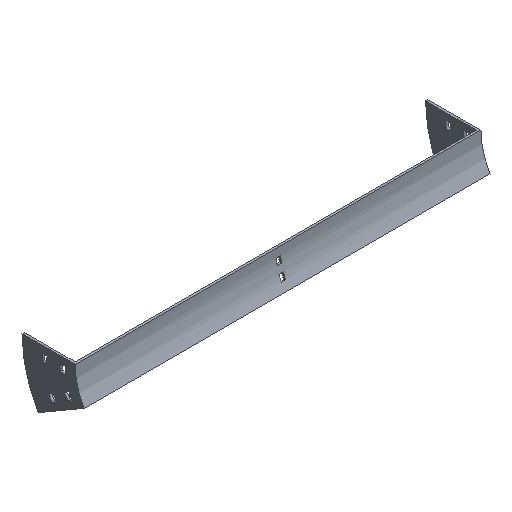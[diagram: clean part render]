
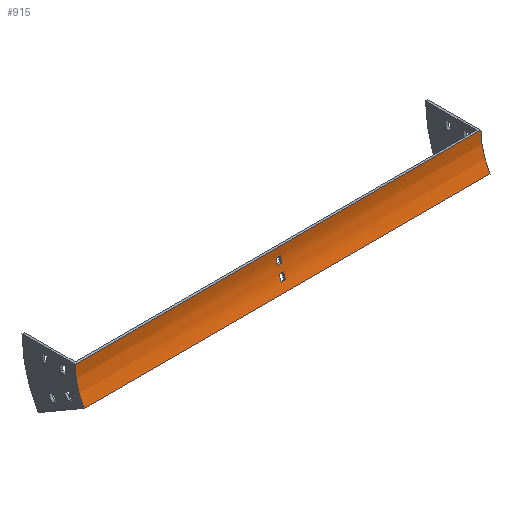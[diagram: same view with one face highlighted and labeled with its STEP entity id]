
A CAD part, isometric view. The second image highlights one B-rep face of the part: STEP entity #915.
In plain terms, the highlighted cylindrical face has radius 100 mm (diameter 200 mm), a partial arc.
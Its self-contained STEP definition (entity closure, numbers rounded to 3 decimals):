
#5 = ORIENTED_EDGE ( 'NONE', *, *, #574, .T. ) ;
#10 = EDGE_CURVE ( 'NONE', #500, #1544, #1281, .T. ) ;
#14 = CARTESIAN_POINT ( 'NONE',  ( 302., 0., 0. ) ) ;
#26 = CARTESIAN_POINT ( 'NONE',  ( -3.25, -8.023, -39.246 ) ) ;
#36 = DIRECTION ( 'NONE',  ( 0., 0., 1. ) ) ;
#45 = EDGE_CURVE ( 'NONE', #1100, #500, #129, .T. ) ;
#58 = CIRCLE ( 'NONE', #1128, 100. ) ;
#74 = DIRECTION ( 'NONE',  ( 1., 0., 0. ) ) ;
#75 = VERTEX_POINT ( 'NONE', #508 ) ;
#78 = CARTESIAN_POINT ( 'NONE',  ( 302., -13.397, -50. ) ) ;
#97 = CARTESIAN_POINT ( 'NONE',  ( 3.25, -8.023, -39.246 ) ) ;
#102 = EDGE_LOOP ( 'NONE', ( #1673, #227, #483, #754 ) ) ;
#111 = VERTEX_POINT ( 'NONE', #1688 ) ;
#129 = LINE ( 'NONE', #14, #579 ) ;
#144 = AXIS2_PLACEMENT_3D ( 'NONE', #688, #577, #36 ) ;
#156 = EDGE_CURVE ( 'NONE', #111, #259, #901, .T. ) ;
#160 = CARTESIAN_POINT ( 'NONE',  ( -3.25, -100., 0. ) ) ;
#191 = DIRECTION ( 'NONE',  ( -1., 0., 0. ) ) ;
#206 = VERTEX_POINT ( 'NONE', #26 ) ;
#210 = EDGE_CURVE ( 'NONE', #916, #111, #1098, .T. ) ;
#212 = CARTESIAN_POINT ( 'NONE',  ( 302., -8.023, -39.246 ) ) ;
#217 = ORIENTED_EDGE ( 'NONE', *, *, #1059, .F. ) ;
#227 = ORIENTED_EDGE ( 'NONE', *, *, #611, .F. ) ;
#259 = VERTEX_POINT ( 'NONE', #1452 ) ;
#316 = ORIENTED_EDGE ( 'NONE', *, *, #156, .F. ) ;
#323 = CARTESIAN_POINT ( 'NONE',  ( -302., -100., 0. ) ) ;
#345 = EDGE_CURVE ( 'NONE', #704, #1104, #1340, .T. ) ;
#354 = FACE_BOUND ( 'NONE', #985, .T. ) ;
#430 = ORIENTED_EDGE ( 'NONE', *, *, #345, .T. ) ;
#461 = DIRECTION ( 'NONE',  ( 1., 0., 0. ) ) ;
#472 = VECTOR ( 'NONE', #517, 1000. ) ;
#483 = ORIENTED_EDGE ( 'NONE', *, *, #1550, .F. ) ;
#500 = VERTEX_POINT ( 'NONE', #919 ) ;
#508 = CARTESIAN_POINT ( 'NONE',  ( -3.25, -2.23, -21. ) ) ;
#509 = VECTOR ( 'NONE', #1324, 1000. ) ;
#513 = CARTESIAN_POINT ( 'NONE',  ( 302., -13.397, -50. ) ) ;
#517 = DIRECTION ( 'NONE',  ( -1., 0., 0. ) ) ;
#533 = VERTEX_POINT ( 'NONE', #78 ) ;
#535 = CARTESIAN_POINT ( 'NONE',  ( 302., -4.829, -30.699 ) ) ;
#550 = CIRCLE ( 'NONE', #1502, 100. ) ;
#556 = DIRECTION ( 'NONE',  ( 0., 0., -1. ) ) ;
#574 = EDGE_CURVE ( 'NONE', #75, #854, #58, .T. ) ;
#577 = DIRECTION ( 'NONE',  ( 1., 0., 0. ) ) ;
#579 = VECTOR ( 'NONE', #1198, 1000. ) ;
#611 = EDGE_CURVE ( 'NONE', #533, #1544, #1676, .T. ) ;
#628 = VECTOR ( 'NONE', #74, 1000. ) ;
#688 = CARTESIAN_POINT ( 'NONE',  ( 3.25, -100., 0. ) ) ;
#693 = ORIENTED_EDGE ( 'NONE', *, *, #1371, .T. ) ;
#704 = VERTEX_POINT ( 'NONE', #765 ) ;
#709 = CIRCLE ( 'NONE', #1584, 100. ) ;
#720 = DIRECTION ( 'NONE',  ( -1., 0., 0. ) ) ;
#747 = DIRECTION ( 'NONE',  ( -1., 0., 0. ) ) ;
#754 = ORIENTED_EDGE ( 'NONE', *, *, #45, .T. ) ;
#765 = CARTESIAN_POINT ( 'NONE',  ( 3.25, -0.723, -12. ) ) ;
#783 = CARTESIAN_POINT ( 'NONE',  ( -302., -13.397, -50. ) ) ;
#831 = DIRECTION ( 'NONE',  ( 0., 0., 1. ) ) ;
#854 = VERTEX_POINT ( 'NONE', #1276 ) ;
#871 = CARTESIAN_POINT ( 'NONE',  ( 3.25, -100., 0. ) ) ;
#881 = FACE_BOUND ( 'NONE', #1404, .T. ) ;
#899 = CYLINDRICAL_SURFACE ( 'NONE', #1035, 100. ) ;
#901 = LINE ( 'NONE', #535, #472 ) ;
#915 = ADVANCED_FACE ( 'NONE', ( #1527, #354, #881 ), #899, .F. ) ;
#916 = VERTEX_POINT ( 'NONE', #97 ) ;
#919 = CARTESIAN_POINT ( 'NONE',  ( -302., 0., 0. ) ) ;
#985 = EDGE_LOOP ( 'NONE', ( #1337, #5, #693, #430 ) ) ;
#1008 = DIRECTION ( 'NONE',  ( 0., 0., 1. ) ) ;
#1011 = CARTESIAN_POINT ( 'NONE',  ( 302., -100., 0. ) ) ;
#1013 = AXIS2_PLACEMENT_3D ( 'NONE', #871, #1387, #1261 ) ;
#1030 = DIRECTION ( 'NONE',  ( -1., 0., 0. ) ) ;
#1035 = AXIS2_PLACEMENT_3D ( 'NONE', #1011, #747, #1269 ) ;
#1059 = EDGE_CURVE ( 'NONE', #206, #916, #1664, .T. ) ;
#1098 = CIRCLE ( 'NONE', #144, 100. ) ;
#1100 = VERTEX_POINT ( 'NONE', #1453 ) ;
#1104 = VERTEX_POINT ( 'NONE', #1210 ) ;
#1128 = AXIS2_PLACEMENT_3D ( 'NONE', #1237, #461, #1008 ) ;
#1138 = VECTOR ( 'NONE', #1533, 1000. ) ;
#1170 = EDGE_CURVE ( 'NONE', #259, #206, #550, .T. ) ;
#1182 = VECTOR ( 'NONE', #1030, 1000. ) ;
#1198 = DIRECTION ( 'NONE',  ( -1., 0., 0. ) ) ;
#1199 = DIRECTION ( 'NONE',  ( -1., 0., 0. ) ) ;
#1207 = ORIENTED_EDGE ( 'NONE', *, *, #1170, .F. ) ;
#1210 = CARTESIAN_POINT ( 'NONE',  ( 3.25, -2.23, -21. ) ) ;
#1237 = CARTESIAN_POINT ( 'NONE',  ( -3.25, -100., 0. ) ) ;
#1261 = DIRECTION ( 'NONE',  ( 0., 0., -1. ) ) ;
#1265 = CARTESIAN_POINT ( 'NONE',  ( 302., -0.723, -12. ) ) ;
#1269 = DIRECTION ( 'NONE',  ( 0., 0., 1. ) ) ;
#1276 = CARTESIAN_POINT ( 'NONE',  ( -3.25, -0.723, -12. ) ) ;
#1281 = CIRCLE ( 'NONE', #1477, 100. ) ;
#1282 = LINE ( 'NONE', #1265, #1138 ) ;
#1324 = DIRECTION ( 'NONE',  ( -1., 0., 0. ) ) ;
#1337 = ORIENTED_EDGE ( 'NONE', *, *, #1518, .T. ) ;
#1340 = CIRCLE ( 'NONE', #1013, 100. ) ;
#1371 = EDGE_CURVE ( 'NONE', #854, #704, #1282, .T. ) ;
#1387 = DIRECTION ( 'NONE',  ( -1., 0., 0. ) ) ;
#1404 = EDGE_LOOP ( 'NONE', ( #1207, #316, #1485, #217 ) ) ;
#1427 = CARTESIAN_POINT ( 'NONE',  ( 302., -2.23, -21. ) ) ;
#1452 = CARTESIAN_POINT ( 'NONE',  ( -3.25, -4.829, -30.699 ) ) ;
#1453 = CARTESIAN_POINT ( 'NONE',  ( 302., 0., 0. ) ) ;
#1477 = AXIS2_PLACEMENT_3D ( 'NONE', #323, #191, #831 ) ;
#1485 = ORIENTED_EDGE ( 'NONE', *, *, #210, .F. ) ;
#1502 = AXIS2_PLACEMENT_3D ( 'NONE', #160, #1199, #556 ) ;
#1506 = CARTESIAN_POINT ( 'NONE',  ( 302., -100., 0. ) ) ;
#1518 = EDGE_CURVE ( 'NONE', #1104, #75, #1682, .T. ) ;
#1527 = FACE_OUTER_BOUND ( 'NONE', #102, .T. ) ;
#1533 = DIRECTION ( 'NONE',  ( 1., 0., 0. ) ) ;
#1544 = VERTEX_POINT ( 'NONE', #783 ) ;
#1550 = EDGE_CURVE ( 'NONE', #1100, #533, #709, .T. ) ;
#1584 = AXIS2_PLACEMENT_3D ( 'NONE', #1506, #720, #1630 ) ;
#1630 = DIRECTION ( 'NONE',  ( 0., 0., 1. ) ) ;
#1664 = LINE ( 'NONE', #212, #628 ) ;
#1673 = ORIENTED_EDGE ( 'NONE', *, *, #10, .T. ) ;
#1676 = LINE ( 'NONE', #513, #1182 ) ;
#1682 = LINE ( 'NONE', #1427, #509 ) ;
#1688 = CARTESIAN_POINT ( 'NONE',  ( 3.25, -4.829, -30.699 ) ) ;
